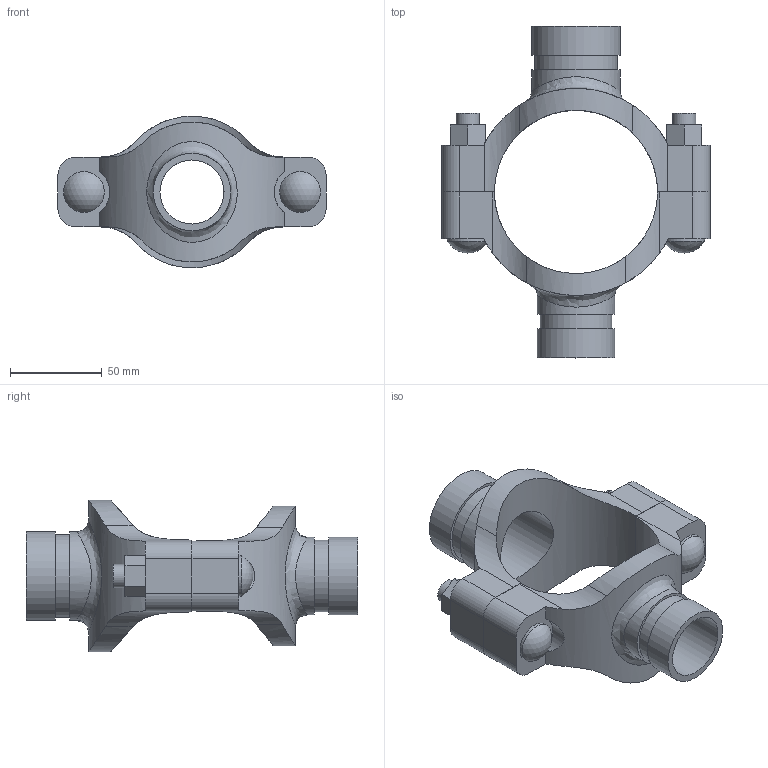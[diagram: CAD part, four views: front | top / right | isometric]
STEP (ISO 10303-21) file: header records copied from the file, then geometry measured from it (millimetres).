
FILE_DESCRIPTION(/* description */ ('VIC MECH-T BRANCH OUTLET CROSS STYLE 920N (GRVD)','CAx-IF Rec.Pracs.---Representation and Presentation of Product Manufacturing Information (PMI)---4.0---2014-10-13'),/* implementation_level */ '2;1');
FILE_NAME(/* name */ 'C:\Users\Vjadhav\AppData\Roaming\Autodesk\ApplicationPlugins\Back Up\Victaulic_IPS_Mechanical-Cross Outlet_Style 920N (OGS)\Victaulic_IPS_Mechanical-Cross Outlet_03.0x01.5x01.25 (80x40x32).stp',/* time_stamp */ '2020-08-06T19:43:27+05:00',/* author */ ('Vjadhav'),/* organization */ ('Victaulic'),/* preprocessor_version */ 'ST-DEVELOPER v17.2',/* originating_system */ 'Autodesk Inventor 2019',/* authorisation */ '');
FILE_SCHEMA (('AP242_MANAGED_MODEL_BASED_3D_ENGINEERING_MIM_LF { 1 0 10303 442 1 1 4 }'));
Length unit declared in the file: inch
Products named in the file (3): 920NG-03.0x01.5x01.25; 920NG-03.0x01.5; 920NG-03.0x01.25
Assembly tree (2 placements, depth 2):
  920NG-03.0x01.5x01.25
    920NG-03.0x01.5
    920NG-03.0x01.25
Bounding box: 146.05 x 180.85 x 82.52 mm (x, y, z)
Volume: 271057.6 mm3; surface area: 81929.2 mm2
Topology: 2 solids, 2 shells, 108 faces, 274 edges, 186 vertices
Faces by surface type: plane 54, cylinder 50, sphere 2, bspline 2
Full cylindrical faces by diameter (mm): 12.7 x4, 22.225 x2, 34.925 x1, 38.989 x1, 41.275 x1, 42.164 x2, 45.085 x1, 48.26 x2
Entity records: 4390 total; most frequent: CARTESIAN_POINT 1509, DIRECTION 552, ORIENTED_EDGE 548, EDGE_CURVE 274, AXIS2_PLACEMENT_3D 201, VERTEX_POINT 186, LINE 150, VECTOR 150
